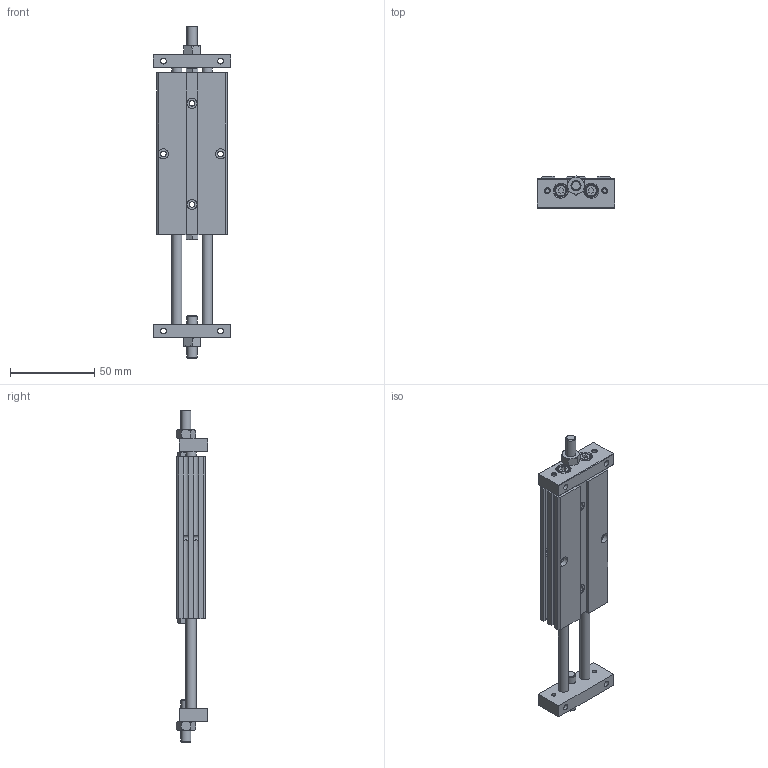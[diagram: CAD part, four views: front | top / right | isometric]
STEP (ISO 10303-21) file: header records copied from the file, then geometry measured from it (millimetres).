
FILE_DESCRIPTION((''),'2;1');
FILE_NAME('J:\3D電子目錄\氣缸\STU\STU\STU10\STU10x50.stp','2009-01-08T10:49:26',('EPM'),(''),'Autodesk Inventor 2008','Autodesk Inventor 2008','');
FILE_SCHEMA(('AUTOMOTIVE_DESIGN { 1 0 10303 214 1 1 1 1 }'));
Length unit declared in the file: millimetre
Products named in the file (1): STU10
Bounding box: 46 x 18.77 x 196.8 mm (x, y, z)
Volume: 75080.8 mm3; surface area: 27091.2 mm2
Topology: 1 solids, 1 shells, 266 faces, 648 edges, 414 vertices
Faces by surface type: plane 134, cone 52, bspline 50, cylinder 26, torus 4
Full cylindrical faces by diameter (mm): 2 x2, 6 x10, 7 x4, 8 x4, 12 x2, 13 x2
Entity records: 8191 total; most frequent: CARTESIAN_POINT 2604, DIRECTION 1074, ORIENTED_EDGE 1066, EDGE_CURVE 533, EDGE_LOOP 428, AXIS2_PLACEMENT_3D 402, VERTEX_POINT 389, VECTOR 270
